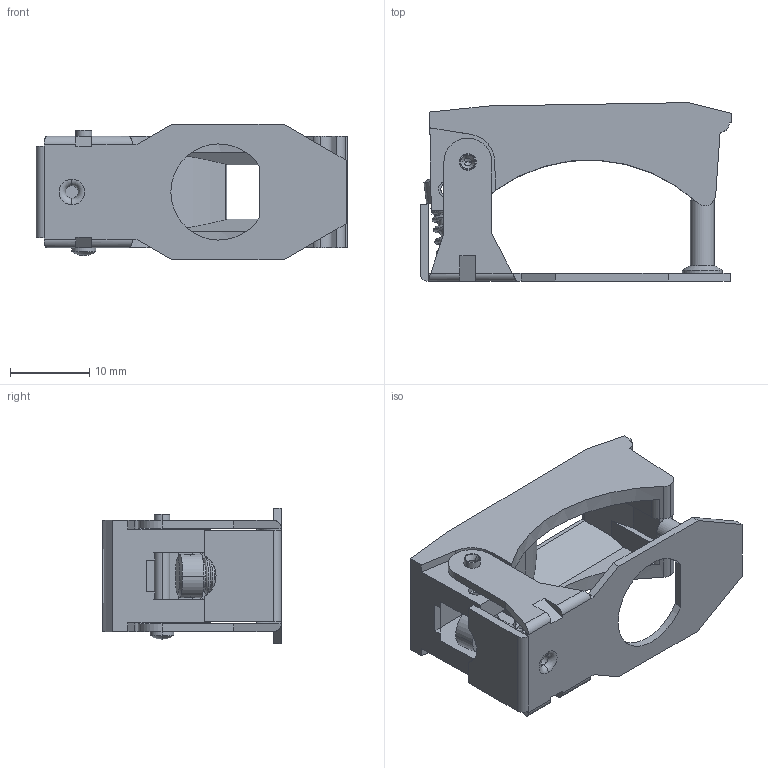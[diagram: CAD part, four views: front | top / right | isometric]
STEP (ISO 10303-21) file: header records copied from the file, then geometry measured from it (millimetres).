
FILE_DESCRIPTION((''),'2;1');
FILE_NAME('5X','2011-08-22T',('rboyer'),(''),'PRO/ENGINEER BY PARAMETRIC TECHNOLOGY CORPORATION, 2009440','PRO/ENGINEER BY PARAMETRIC TECHNOLOGY CORPORATION, 2009440','');
FILE_SCHEMA(('CONFIG_CONTROL_DESIGN'));
Length unit declared in the file: millimetre
Products named in the file (1): 5X
Bounding box: 39.22 x 22.46 x 17 mm (x, y, z)
Volume: 4205.7 mm3; surface area: 4815.8 mm2
Topology: 2 solids, 2 shells, 185 faces, 505 edges, 322 vertices
Faces by surface type: plane 101, cylinder 61, cone 10, bspline 9, sphere 2, torus 2
Entity records: 11788 total; most frequent: CARTESIAN_POINT 7057, ORIENTED_EDGE 1002, DIRECTION 942, EDGE_CURVE 501, VERTEX_POINT 322, AXIS2_PLACEMENT_3D 317, VECTOR 308, LINE 308
